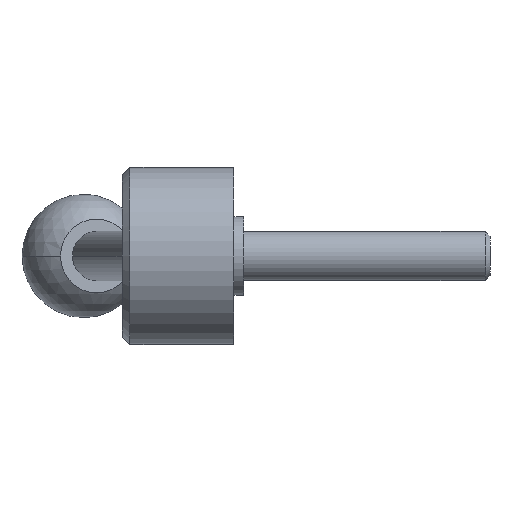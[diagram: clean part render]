
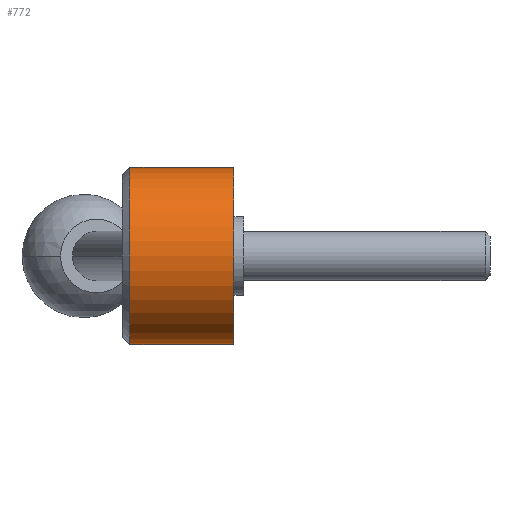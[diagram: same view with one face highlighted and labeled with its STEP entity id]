
A CAD part, left-side view. The second image highlights one B-rep face of the part: STEP entity #772.
In plain terms, the highlighted cylindrical face has radius 18 mm (diameter 36 mm), a partial arc.
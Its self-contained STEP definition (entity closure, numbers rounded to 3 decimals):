
#21 = DIRECTION ( 'NONE',  ( 0., 0., -1. ) ) ;
#25 = DIRECTION ( 'NONE',  ( 0., -1., 0. ) ) ;
#59 = VECTOR ( 'NONE', #717, 1000. ) ;
#65 = CARTESIAN_POINT ( 'NONE',  ( 0., 21.1, 0. ) ) ;
#92 = EDGE_CURVE ( 'NONE', #308, #437, #822, .T. ) ;
#99 = AXIS2_PLACEMENT_3D ( 'NONE', #65, #284, #210 ) ;
#108 = CARTESIAN_POINT ( 'NONE',  ( 0., 21.1, 18. ) ) ;
#131 = CARTESIAN_POINT ( 'NONE',  ( 0., 0., 0. ) ) ;
#138 = AXIS2_PLACEMENT_3D ( 'NONE', #131, #533, #464 ) ;
#150 = CIRCLE ( 'NONE', #632, 18. ) ;
#154 = EDGE_CURVE ( 'NONE', #308, #759, #476, .T. ) ;
#161 = ORIENTED_EDGE ( 'NONE', *, *, #673, .F. ) ;
#178 = CARTESIAN_POINT ( 'NONE',  ( 0., 0., -18. ) ) ;
#193 = ORIENTED_EDGE ( 'NONE', *, *, #553, .T. ) ;
#210 = DIRECTION ( 'NONE',  ( 0., 0., 1. ) ) ;
#284 = DIRECTION ( 'NONE',  ( 0., -1., 0. ) ) ;
#306 = CARTESIAN_POINT ( 'NONE',  ( 0., 0., 0. ) ) ;
#308 = VERTEX_POINT ( 'NONE', #108 ) ;
#372 = ORIENTED_EDGE ( 'NONE', *, *, #92, .F. ) ;
#384 = CARTESIAN_POINT ( 'NONE',  ( 0., 0., -18. ) ) ;
#395 = CYLINDRICAL_SURFACE ( 'NONE', #138, 18. ) ;
#419 = VERTEX_POINT ( 'NONE', #178 ) ;
#437 = VERTEX_POINT ( 'NONE', #825 ) ;
#464 = DIRECTION ( 'NONE',  ( 0., 0., -1. ) ) ;
#476 = CIRCLE ( 'NONE', #99, 18. ) ;
#485 = EDGE_LOOP ( 'NONE', ( #372, #552, #193, #161 ) ) ;
#533 = DIRECTION ( 'NONE',  ( 0., -1., 0. ) ) ;
#552 = ORIENTED_EDGE ( 'NONE', *, *, #154, .T. ) ;
#553 = EDGE_CURVE ( 'NONE', #759, #419, #726, .T. ) ;
#632 = AXIS2_PLACEMENT_3D ( 'NONE', #306, #633, #21 ) ;
#633 = DIRECTION ( 'NONE',  ( 0., -1., 0. ) ) ;
#673 = EDGE_CURVE ( 'NONE', #437, #419, #150, .T. ) ;
#716 = FACE_OUTER_BOUND ( 'NONE', #485, .T. ) ;
#717 = DIRECTION ( 'NONE',  ( 0., -1., 0. ) ) ;
#724 = CARTESIAN_POINT ( 'NONE',  ( 0., 21.1, -18. ) ) ;
#726 = LINE ( 'NONE', #384, #59 ) ;
#756 = CARTESIAN_POINT ( 'NONE',  ( 0., 0., 18. ) ) ;
#759 = VERTEX_POINT ( 'NONE', #724 ) ;
#772 = ADVANCED_FACE ( 'NONE', ( #716 ), #395, .T. ) ;
#822 = LINE ( 'NONE', #756, #833 ) ;
#825 = CARTESIAN_POINT ( 'NONE',  ( 0., 0., 18. ) ) ;
#833 = VECTOR ( 'NONE', #25, 1000. ) ;
